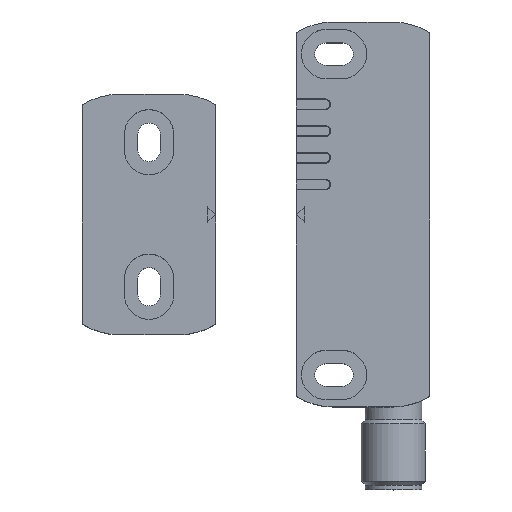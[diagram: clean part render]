
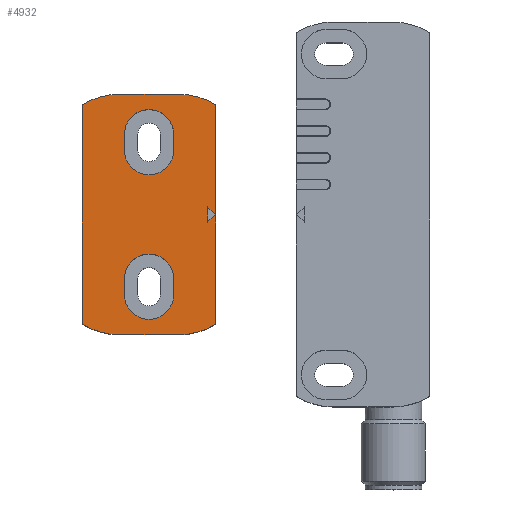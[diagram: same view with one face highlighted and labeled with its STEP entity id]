
A CAD part, top view. The second image highlights one B-rep face of the part: STEP entity #4932.
In plain terms, the highlighted planar face has unit normal (0, 0, 1).
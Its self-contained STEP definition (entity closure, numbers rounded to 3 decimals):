
#384=LINE('',#7310,#803);
#385=LINE('',#7315,#804);
#386=LINE('',#7318,#805);
#387=LINE('',#7323,#806);
#388=LINE('',#7329,#807);
#389=LINE('',#7333,#808);
#390=LINE('',#7337,#809);
#391=LINE('',#7341,#810);
#392=LINE('',#7342,#811);
#393=LINE('',#7345,#812);
#394=LINE('',#7347,#813);
#803=VECTOR('',#6141,1000.);
#804=VECTOR('',#6144,1000.);
#805=VECTOR('',#6147,1000.);
#806=VECTOR('',#6150,1000.);
#807=VECTOR('',#6155,1000.);
#808=VECTOR('',#6158,1000.);
#809=VECTOR('',#6161,1000.);
#810=VECTOR('',#6164,1000.);
#811=VECTOR('',#6165,1000.);
#812=VECTOR('',#6166,1000.);
#813=VECTOR('',#6167,1000.);
#1698=ORIENTED_EDGE('',*,*,#2453,.F.);
#1699=ORIENTED_EDGE('',*,*,#2454,.F.);
#1700=ORIENTED_EDGE('',*,*,#2455,.F.);
#1701=ORIENTED_EDGE('',*,*,#2456,.F.);
#1702=ORIENTED_EDGE('',*,*,#2457,.F.);
#1703=ORIENTED_EDGE('',*,*,#2458,.F.);
#1704=ORIENTED_EDGE('',*,*,#2459,.F.);
#1705=ORIENTED_EDGE('',*,*,#2460,.F.);
#1706=ORIENTED_EDGE('',*,*,#2461,.T.);
#1707=ORIENTED_EDGE('',*,*,#2462,.T.);
#1708=ORIENTED_EDGE('',*,*,#2463,.T.);
#1709=ORIENTED_EDGE('',*,*,#2464,.T.);
#1710=ORIENTED_EDGE('',*,*,#2465,.T.);
#1711=ORIENTED_EDGE('',*,*,#2466,.T.);
#1712=ORIENTED_EDGE('',*,*,#2467,.T.);
#1713=ORIENTED_EDGE('',*,*,#2468,.T.);
#1714=ORIENTED_EDGE('',*,*,#2469,.T.);
#1715=ORIENTED_EDGE('',*,*,#2470,.T.);
#1716=ORIENTED_EDGE('',*,*,#2471,.T.);
#2453=EDGE_CURVE('',#2895,#2896,#384,.T.);
#2454=EDGE_CURVE('',#2897,#2895,#3119,.T.);
#2455=EDGE_CURVE('',#2898,#2897,#385,.T.);
#2456=EDGE_CURVE('',#2896,#2898,#3120,.T.);
#2457=EDGE_CURVE('',#2899,#2900,#386,.T.);
#2458=EDGE_CURVE('',#2901,#2899,#3121,.T.);
#2459=EDGE_CURVE('',#2902,#2901,#387,.T.);
#2460=EDGE_CURVE('',#2900,#2902,#3122,.T.);
#2461=EDGE_CURVE('',#2903,#2904,#3123,.T.);
#2462=EDGE_CURVE('',#2904,#2905,#388,.T.);
#2463=EDGE_CURVE('',#2905,#2906,#3124,.T.);
#2464=EDGE_CURVE('',#2906,#2907,#389,.T.);
#2465=EDGE_CURVE('',#2907,#2908,#3125,.T.);
#2466=EDGE_CURVE('',#2908,#2909,#390,.T.);
#2467=EDGE_CURVE('',#2909,#2910,#3126,.T.);
#2468=EDGE_CURVE('',#2910,#2903,#391,.T.);
#2469=EDGE_CURVE('',#2911,#2912,#392,.T.);
#2470=EDGE_CURVE('',#2912,#2913,#393,.T.);
#2471=EDGE_CURVE('',#2913,#2911,#394,.T.);
#2895=VERTEX_POINT('',#7311);
#2896=VERTEX_POINT('',#7312);
#2897=VERTEX_POINT('',#7314);
#2898=VERTEX_POINT('',#7316);
#2899=VERTEX_POINT('',#7319);
#2900=VERTEX_POINT('',#7320);
#2901=VERTEX_POINT('',#7322);
#2902=VERTEX_POINT('',#7324);
#2903=VERTEX_POINT('',#7327);
#2904=VERTEX_POINT('',#7328);
#2905=VERTEX_POINT('',#7330);
#2906=VERTEX_POINT('',#7332);
#2907=VERTEX_POINT('',#7334);
#2908=VERTEX_POINT('',#7336);
#2909=VERTEX_POINT('',#7338);
#2910=VERTEX_POINT('',#7340);
#2911=VERTEX_POINT('',#7343);
#2912=VERTEX_POINT('',#7344);
#2913=VERTEX_POINT('',#7346);
#3119=CIRCLE('',#5258,4.6);
#3120=CIRCLE('',#5259,4.6);
#3121=CIRCLE('',#5260,4.6);
#3122=CIRCLE('',#5261,4.6);
#3123=CIRCLE('',#5262,13.25);
#3124=CIRCLE('',#5263,13.25);
#3125=CIRCLE('',#5264,13.25);
#3126=CIRCLE('',#5265,13.25);
#3325=EDGE_LOOP('',(#1698,#1699,#1700,#1701));
#3326=EDGE_LOOP('',(#1702,#1703,#1704,#1705));
#3327=EDGE_LOOP('',(#1706,#1707,#1708,#1709,#1710,#1711,#1712,#1713));
#3328=EDGE_LOOP('',(#1714,#1715,#1716));
#3572=FACE_BOUND('',#3325,.T.);
#3573=FACE_BOUND('',#3326,.T.);
#3574=FACE_BOUND('',#3327,.T.);
#3575=FACE_BOUND('',#3328,.T.);
#3750=PLANE('',#5257);
#4932=ADVANCED_FACE('',(#3572,#3573,#3574,#3575),#3750,.T.);
#5257=AXIS2_PLACEMENT_3D('',#7309,#6139,#6140);
#5258=AXIS2_PLACEMENT_3D('',#7313,#6142,#6143);
#5259=AXIS2_PLACEMENT_3D('',#7317,#6145,#6146);
#5260=AXIS2_PLACEMENT_3D('',#7321,#6148,#6149);
#5261=AXIS2_PLACEMENT_3D('',#7325,#6151,#6152);
#5262=AXIS2_PLACEMENT_3D('',#7326,#6153,#6154);
#5263=AXIS2_PLACEMENT_3D('',#7331,#6156,#6157);
#5264=AXIS2_PLACEMENT_3D('',#7335,#6159,#6160);
#5265=AXIS2_PLACEMENT_3D('',#7339,#6162,#6163);
#6139=DIRECTION('',(0.,0.,1.));
#6140=DIRECTION('',(1.,0.,0.));
#6141=DIRECTION('',(-1.,0.,0.));
#6142=DIRECTION('',(0.,0.,1.));
#6143=DIRECTION('',(1.,0.,0.));
#6144=DIRECTION('',(1.,0.,0.));
#6145=DIRECTION('',(0.,0.,1.));
#6146=DIRECTION('',(1.,0.,0.));
#6147=DIRECTION('',(-1.,0.,0.));
#6148=DIRECTION('',(0.,0.,1.));
#6149=DIRECTION('',(1.,0.,0.));
#6150=DIRECTION('',(1.,0.,0.));
#6151=DIRECTION('',(0.,0.,1.));
#6152=DIRECTION('',(1.,0.,0.));
#6153=DIRECTION('',(0.,0.,1.));
#6154=DIRECTION('',(1.,0.,0.));
#6155=DIRECTION('',(0.,-1.,0.));
#6156=DIRECTION('',(0.,0.,1.));
#6157=DIRECTION('',(1.,0.,0.));
#6158=DIRECTION('',(1.,0.,0.));
#6159=DIRECTION('',(0.,0.,1.));
#6160=DIRECTION('',(1.,0.,0.));
#6161=DIRECTION('',(0.,1.,0.));
#6162=DIRECTION('',(0.,0.,1.));
#6163=DIRECTION('',(1.,0.,0.));
#6164=DIRECTION('',(-1.,0.,0.));
#6165=DIRECTION('',(-0.707,0.707,0.));
#6166=DIRECTION('',(1.,0.,0.));
#6167=DIRECTION('',(-0.707,-0.707,0.));
#7309=CARTESIAN_POINT('',(-9.25,18.,9.));
#7310=CARTESIAN_POINT('',(-12.,17.1,9.));
#7311=CARTESIAN_POINT('',(-12.,17.1,9.));
#7312=CARTESIAN_POINT('',(-15.,17.1,9.));
#7313=CARTESIAN_POINT('',(-12.,12.5,9.));
#7314=CARTESIAN_POINT('',(-12.,7.9,9.));
#7315=CARTESIAN_POINT('',(-15.,7.9,9.));
#7316=CARTESIAN_POINT('',(-15.,7.9,9.));
#7317=CARTESIAN_POINT('',(-15.,12.5,9.));
#7318=CARTESIAN_POINT('',(15.,17.1,9.));
#7319=CARTESIAN_POINT('',(15.,17.1,9.));
#7320=CARTESIAN_POINT('',(12.,17.1,9.));
#7321=CARTESIAN_POINT('',(15.,12.5,9.));
#7322=CARTESIAN_POINT('',(15.,7.9,9.));
#7323=CARTESIAN_POINT('',(12.,7.9,9.));
#7324=CARTESIAN_POINT('',(12.,7.9,9.));
#7325=CARTESIAN_POINT('',(12.,12.5,9.));
#7326=CARTESIAN_POINT('',(-9.25,18.,9.));
#7327=CARTESIAN_POINT('',(-20.5,25.,9.));
#7328=CARTESIAN_POINT('',(-22.5,18.,9.));
#7329=CARTESIAN_POINT('',(-22.5,18.,9.));
#7330=CARTESIAN_POINT('',(-22.5,7.,9.));
#7331=CARTESIAN_POINT('',(-9.25,7.,9.));
#7332=CARTESIAN_POINT('',(-20.5,0.,9.));
#7333=CARTESIAN_POINT('',(-20.5,0.,9.));
#7334=CARTESIAN_POINT('',(20.5,0.,9.));
#7335=CARTESIAN_POINT('',(9.25,7.,9.));
#7336=CARTESIAN_POINT('',(22.5,7.,9.));
#7337=CARTESIAN_POINT('',(22.5,7.,9.));
#7338=CARTESIAN_POINT('',(22.5,18.,9.));
#7339=CARTESIAN_POINT('',(9.25,18.,9.));
#7340=CARTESIAN_POINT('',(20.5,25.,9.));
#7341=CARTESIAN_POINT('',(20.5,25.,9.));
#7342=CARTESIAN_POINT('',(-13.575,13.675,9.));
#7343=CARTESIAN_POINT('',(0.,0.1,9.));
#7344=CARTESIAN_POINT('',(-1.414,1.514,9.));
#7345=CARTESIAN_POINT('',(-9.25,1.514,9.));
#7346=CARTESIAN_POINT('',(1.414,1.514,9.));
#7347=CARTESIAN_POINT('',(4.325,4.425,9.));
